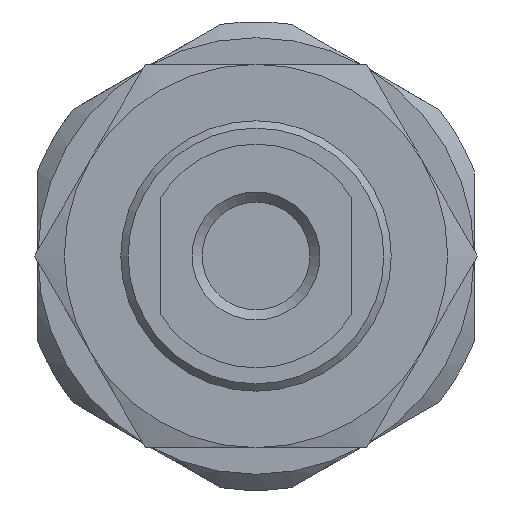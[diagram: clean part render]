
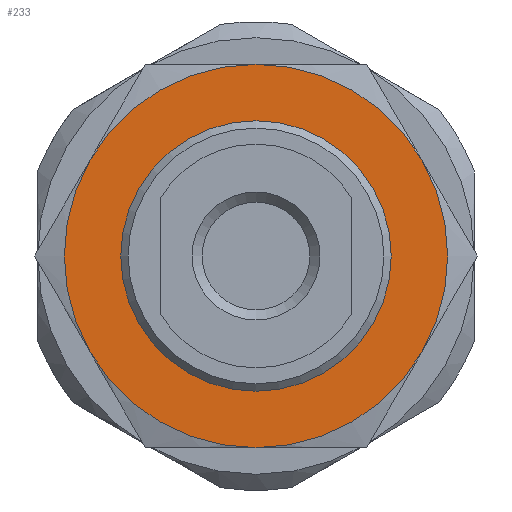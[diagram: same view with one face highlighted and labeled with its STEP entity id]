
A CAD part, left-side view. The second image highlights one B-rep face of the part: STEP entity #233.
In plain terms, the highlighted planar face has unit normal (-1, 0, 0).
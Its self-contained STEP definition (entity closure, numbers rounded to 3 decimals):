
#233 = ADVANCED_FACE( '', ( #368, #369 ), #370, .F. );
#368 = FACE_BOUND( '', #609, .T. );
#369 = FACE_OUTER_BOUND( '', #610, .T. );
#370 = PLANE( '', #611 );
#609 = EDGE_LOOP( '', ( #1023 ) );
#610 = EDGE_LOOP( '', ( #1024, #1025, #1026, #1027, #1028, #1029 ) );
#611 = AXIS2_PLACEMENT_3D( '', #1030, #1031, #1032 );
#1023 = ORIENTED_EDGE( '', *, *, #1646, .F. );
#1024 = ORIENTED_EDGE( '', *, *, #1647, .F. );
#1025 = ORIENTED_EDGE( '', *, *, #1648, .F. );
#1026 = ORIENTED_EDGE( '', *, *, #1649, .F. );
#1027 = ORIENTED_EDGE( '', *, *, #1570, .F. );
#1028 = ORIENTED_EDGE( '', *, *, #1645, .F. );
#1029 = ORIENTED_EDGE( '', *, *, #1650, .F. );
#1030 = CARTESIAN_POINT( '', ( 7.5, 10.5, 0. ) );
#1031 = DIRECTION( '', ( 1., 0., 0. ) );
#1032 = DIRECTION( '', ( 0., 0., -1. ) );
#1570 = EDGE_CURVE( '', #1815, #1816, #1817, .T. );
#1645 = EDGE_CURVE( '', #1812, #1815, #1942, .T. );
#1646 = EDGE_CURVE( '', #1943, #1943, #1944, .F. );
#1647 = EDGE_CURVE( '', #1830, #1945, #1946, .T. );
#1648 = EDGE_CURVE( '', #1839, #1830, #1947, .T. );
#1649 = EDGE_CURVE( '', #1816, #1839, #1948, .T. );
#1650 = EDGE_CURVE( '', #1945, #1812, #1949, .T. );
#1812 = VERTEX_POINT( '', #2242 );
#1815 = VERTEX_POINT( '', #2255 );
#1816 = VERTEX_POINT( '', #2256 );
#1817 = CIRCLE( '', #2257, 18. );
#1830 = VERTEX_POINT( '', #2292 );
#1839 = VERTEX_POINT( '', #2322 );
#1942 = CIRCLE( '', #2548, 18. );
#1943 = VERTEX_POINT( '', #2549 );
#1944 = CIRCLE( '', #2550, 12.7 );
#1945 = VERTEX_POINT( '', #2551 );
#1946 = CIRCLE( '', #2552, 18. );
#1947 = CIRCLE( '', #2553, 18. );
#1948 = CIRCLE( '', #2554, 18. );
#1949 = CIRCLE( '', #2555, 18. );
#2242 = CARTESIAN_POINT( '', ( 7.5, 0., 18. ) );
#2255 = CARTESIAN_POINT( '', ( 7.5, -15.588, 9. ) );
#2256 = CARTESIAN_POINT( '', ( 7.5, -15.588, -9. ) );
#2257 = AXIS2_PLACEMENT_3D( '', #2918, #2919, #2920 );
#2292 = CARTESIAN_POINT( '', ( 7.5, 15.588, -9. ) );
#2322 = CARTESIAN_POINT( '', ( 7.5, 0., -18. ) );
#2548 = AXIS2_PLACEMENT_3D( '', #3011, #3012, #3013 );
#2549 = CARTESIAN_POINT( '', ( 7.5, 0., -12.7 ) );
#2550 = AXIS2_PLACEMENT_3D( '', #3014, #3015, #3016 );
#2551 = CARTESIAN_POINT( '', ( 7.5, 15.588, 9. ) );
#2552 = AXIS2_PLACEMENT_3D( '', #3017, #3018, #3019 );
#2553 = AXIS2_PLACEMENT_3D( '', #3020, #3021, #3022 );
#2554 = AXIS2_PLACEMENT_3D( '', #3023, #3024, #3025 );
#2555 = AXIS2_PLACEMENT_3D( '', #3026, #3027, #3028 );
#2918 = CARTESIAN_POINT( '', ( 7.5, 0., 0. ) );
#2919 = DIRECTION( '', ( 1., 0., 0. ) );
#2920 = DIRECTION( '', ( 0., 0., -1. ) );
#3011 = CARTESIAN_POINT( '', ( 7.5, 0., 0. ) );
#3012 = DIRECTION( '', ( 1., 0., 0. ) );
#3013 = DIRECTION( '', ( 0., 0., -1. ) );
#3014 = CARTESIAN_POINT( '', ( 7.5, 0., 0. ) );
#3015 = DIRECTION( '', ( 1., 0., 0. ) );
#3016 = DIRECTION( '', ( 0., 0., -1. ) );
#3017 = CARTESIAN_POINT( '', ( 7.5, 0., 0. ) );
#3018 = DIRECTION( '', ( 1., 0., 0. ) );
#3019 = DIRECTION( '', ( 0., 0., -1. ) );
#3020 = CARTESIAN_POINT( '', ( 7.5, 0., 0. ) );
#3021 = DIRECTION( '', ( 1., 0., 0. ) );
#3022 = DIRECTION( '', ( 0., 0., -1. ) );
#3023 = CARTESIAN_POINT( '', ( 7.5, 0., 0. ) );
#3024 = DIRECTION( '', ( 1., 0., 0. ) );
#3025 = DIRECTION( '', ( 0., 0., -1. ) );
#3026 = CARTESIAN_POINT( '', ( 7.5, 0., 0. ) );
#3027 = DIRECTION( '', ( 1., 0., 0. ) );
#3028 = DIRECTION( '', ( 0., 0., -1. ) );
